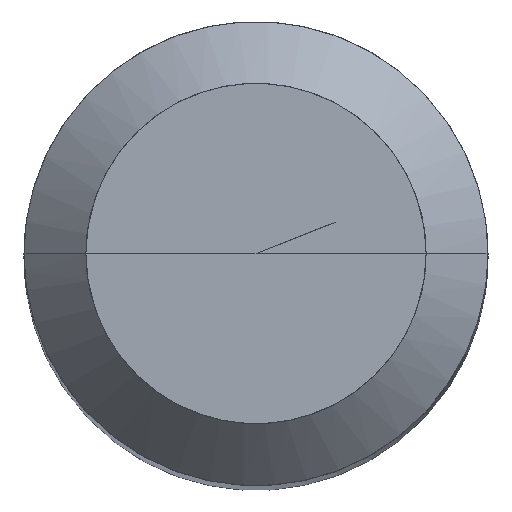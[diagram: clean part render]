
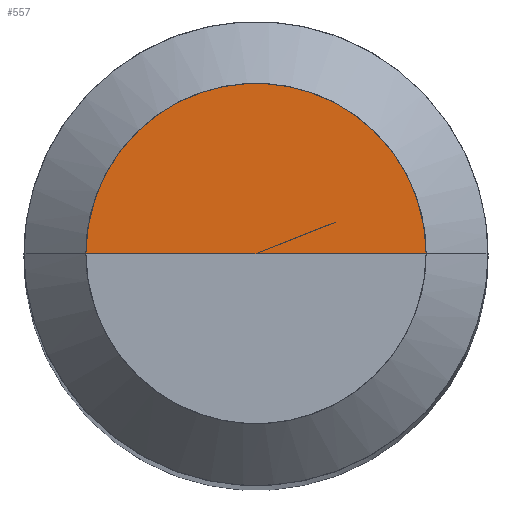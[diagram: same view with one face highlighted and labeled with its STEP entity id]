
A CAD part, top view. The second image highlights one B-rep face of the part: STEP entity #557.
In plain terms, the highlighted free-form (B-spline) face has degree [1, 2] with [2, 5] control points.
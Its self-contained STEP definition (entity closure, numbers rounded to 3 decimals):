
#312=CARTESIAN_POINT('',(2.2,0.0,35.895));
#313=CARTESIAN_POINT('',(2.2,2.2,35.895));
#314=CARTESIAN_POINT('',(0.0,2.2,35.895));
#315=CARTESIAN_POINT('',(-2.2,2.2,35.895));
#316=CARTESIAN_POINT('',(-2.2,0.0,35.895));
#317=CARTESIAN_POINT('',(0.0,0.0,35.895));
#542=(
BOUNDED_SURFACE()
B_SPLINE_SURFACE(1,2,(
(#312,#313,#314,#315,#316),
(#317,#317,#317,#317,#317)
), .UNSPECIFIED.,.F.,.F.,.F.)
B_SPLINE_SURFACE_WITH_KNOTS((2,2),(3,2,3),(
0.0,1.0),(
0.0,0.5,1.0), .UNSPECIFIED.)
GEOMETRIC_REPRESENTATION_ITEM()
RATIONAL_B_SPLINE_SURFACE(((1.0,0.707,1.0,0.707,1.0),
(1.0,0.707,1.0,0.707,1.0)
))
REPRESENTATION_ITEM('')
SURFACE()
);
#543=(
BOUNDED_CURVE()
B_SPLINE_CURVE(2,(#316,#315,#314,#313,#312),.UNSPECIFIED.,.F.,.F.)
B_SPLINE_CURVE_WITH_KNOTS((3,2,3),
(0.0,0.5,1.0),.UNSPECIFIED.)
CURVE()
GEOMETRIC_REPRESENTATION_ITEM()
RATIONAL_B_SPLINE_CURVE((1.0,0.707,1.0,0.707,1.0))
REPRESENTATION_ITEM('')
);
#544=(
BOUNDED_CURVE()
B_SPLINE_CURVE(1,(#312,#317),.UNSPECIFIED.,.F.,.F.)
B_SPLINE_CURVE_WITH_KNOTS((2,2),
(0.0,1.0),.UNSPECIFIED.)
CURVE()
GEOMETRIC_REPRESENTATION_ITEM()
RATIONAL_B_SPLINE_CURVE((1.0,1.0))
REPRESENTATION_ITEM('')
);
#545=(
BOUNDED_CURVE()
B_SPLINE_CURVE(1,(#317,#316),.UNSPECIFIED.,.F.,.F.)
B_SPLINE_CURVE_WITH_KNOTS((2,2),
(0.0,1.0),.UNSPECIFIED.)
CURVE()
GEOMETRIC_REPRESENTATION_ITEM()
RATIONAL_B_SPLINE_CURVE((1.0,1.0))
REPRESENTATION_ITEM('')
);
#546=VERTEX_POINT('',#312);
#547=VERTEX_POINT('',#316);
#548=VERTEX_POINT('',#317);
#549=EDGE_CURVE('',#547,#546,#543,.T.);
#550=EDGE_CURVE('',#546,#548,#544,.T.);
#551=EDGE_CURVE('',#548,#547,#545,.T.);
#552=ORIENTED_EDGE('',*,*,#549,.T.);
#553=ORIENTED_EDGE('',*,*,#550,.T.);
#554=ORIENTED_EDGE('',*,*,#551,.T.);
#555=EDGE_LOOP('',(#552,#553,#554));
#556=FACE_OUTER_BOUND('',#555,.T.);
#557=ADVANCED_FACE('',(#556),#542,.T.);
